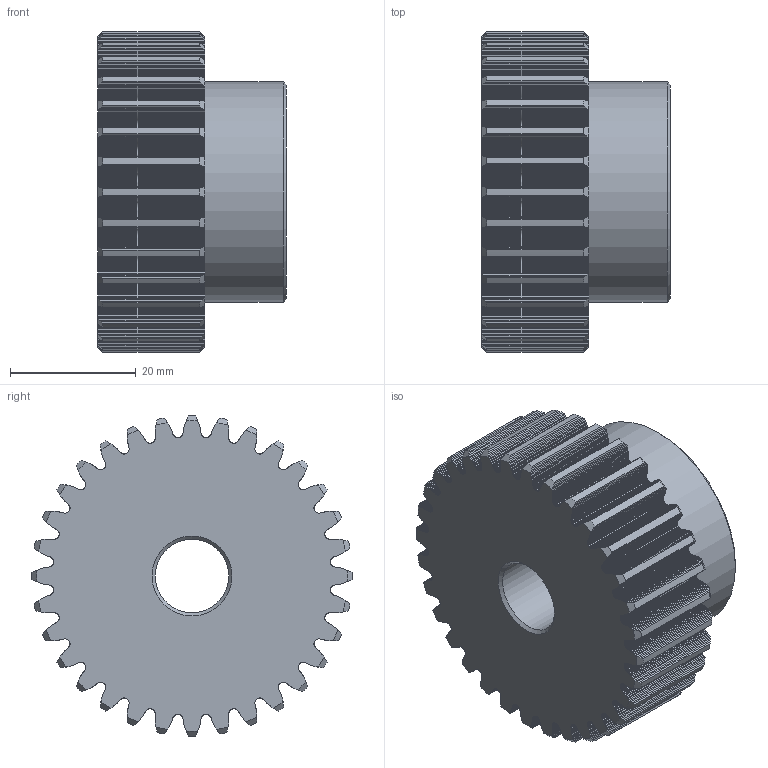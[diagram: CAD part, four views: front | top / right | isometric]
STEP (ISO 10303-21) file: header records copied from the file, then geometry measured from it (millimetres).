
FILE_DESCRIPTION(/* description */ ('INGRANAGGIO M1,5 Z 32 CON OZZO'),/* implementation_level */ '2;1');
FILE_NAME(/* name */ '30115032.stp',/* time_stamp */ '2023-04-18T08:22:28+02:00',/* author */ ('Paolo.Silvestro'),/* organization */ (''),/* preprocessor_version */ 'ST-DEVELOPER v19.2',/* originating_system */ 'Autodesk Inventor 2023',/* authorisation */ '');
FILE_SCHEMA (('CONFIG_CONTROL_DESIGN'));
Length unit declared in the file: millimetre
Products named in the file (1): 30115032
Bounding box: 30 x 51 x 51 mm (x, y, z)
Volume: 39730.5 mm3; surface area: 10774.3 mm2
Topology: 1 solids, 1 shells, 2376 faces, 7119 edges, 4746 vertices
Faces by surface type: plane 2243, cone 67, cylinder 66
Full cylindrical faces by diameter (mm): 11.7 x1, 35 x1
Entity records: 78080 total; most frequent: CARTESIAN_POINT 15266, ORIENTED_EDGE 14238, DIRECTION 11563, EDGE_CURVE 7119, LINE 6405, VECTOR 6405, VERTEX_POINT 4746, AXIS2_PLACEMENT_3D 2579
